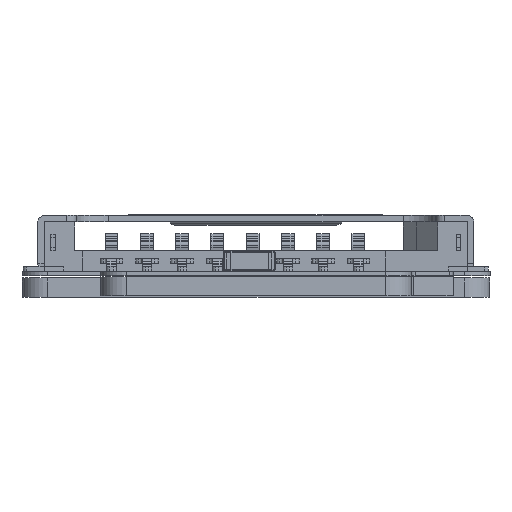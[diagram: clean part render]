
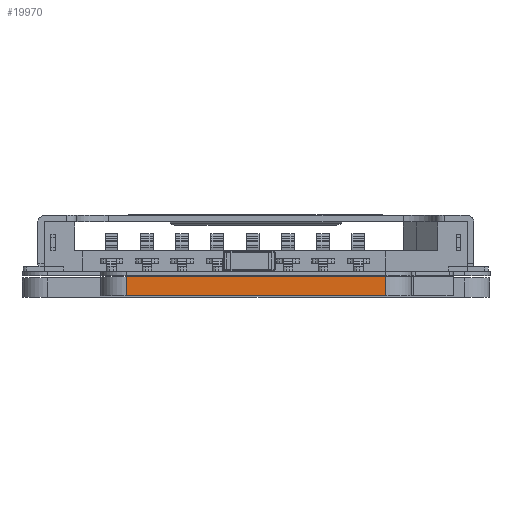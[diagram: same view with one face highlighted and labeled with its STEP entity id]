
A CAD part, front view. The second image highlights one B-rep face of the part: STEP entity #19970.
In plain terms, the highlighted planar face has unit normal (0, -1, 0) as drawn and (0, 1, 0) by its records, which use the part's own axes.
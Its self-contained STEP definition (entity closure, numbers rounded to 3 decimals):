
#19456 = VERTEX_POINT('',#19457);
#19457 = CARTESIAN_POINT('',(19.961,29.349,0.));
#19475 = VERTEX_POINT('',#19476);
#19476 = CARTESIAN_POINT('',(19.961,29.349,0.6));
#19483 = EDGE_CURVE('',#19475,#19456,#19484,.T.);
#19484 = LINE('',#19485,#19486);
#19485 = CARTESIAN_POINT('',(19.961,29.349,0.6));
#19486 = VECTOR('',#19487,1.);
#19487 = DIRECTION('',(0.,0.,-1.));
#19942 = VERTEX_POINT('',#19943);
#19943 = CARTESIAN_POINT('',(28.061,29.349,0.));
#19950 = EDGE_CURVE('',#19951,#19942,#19953,.T.);
#19951 = VERTEX_POINT('',#19952);
#19952 = CARTESIAN_POINT('',(28.061,29.349,0.6));
#19953 = LINE('',#19954,#19955);
#19954 = CARTESIAN_POINT('',(28.061,29.349,0.6));
#19955 = VECTOR('',#19956,1.);
#19956 = DIRECTION('',(0.,0.,-1.));
#19970 = ADVANCED_FACE('',(#19971),#19987,.F.);
#19971 = FACE_BOUND('',#19972,.T.);
#19972 = EDGE_LOOP('',(#19973,#19979,#19980,#19986));
#19973 = ORIENTED_EDGE('',*,*,#19974,.T.);
#19974 = EDGE_CURVE('',#19942,#19456,#19975,.T.);
#19975 = LINE('',#19976,#19977);
#19976 = CARTESIAN_POINT('',(19.961,29.349,0.));
#19977 = VECTOR('',#19978,1.);
#19978 = DIRECTION('',(-1.,0.,0.));
#19979 = ORIENTED_EDGE('',*,*,#19483,.F.);
#19980 = ORIENTED_EDGE('',*,*,#19981,.F.);
#19981 = EDGE_CURVE('',#19951,#19475,#19982,.T.);
#19982 = LINE('',#19983,#19984);
#19983 = CARTESIAN_POINT('',(19.961,29.349,0.6));
#19984 = VECTOR('',#19985,1.);
#19985 = DIRECTION('',(-1.,0.,0.));
#19986 = ORIENTED_EDGE('',*,*,#19950,.T.);
#19987 = PLANE('',#19988);
#19988 = AXIS2_PLACEMENT_3D('',#19989,#19990,#19991);
#19989 = CARTESIAN_POINT('',(19.961,29.349,0.6));
#19990 = DIRECTION('',(0.,-1.,0.));
#19991 = DIRECTION('',(1.,0.,0.));
